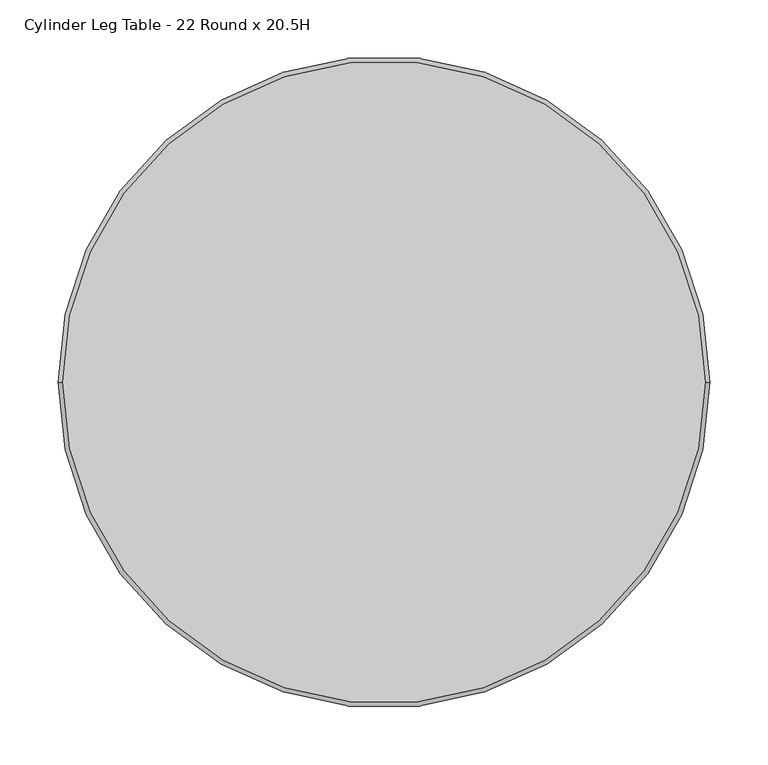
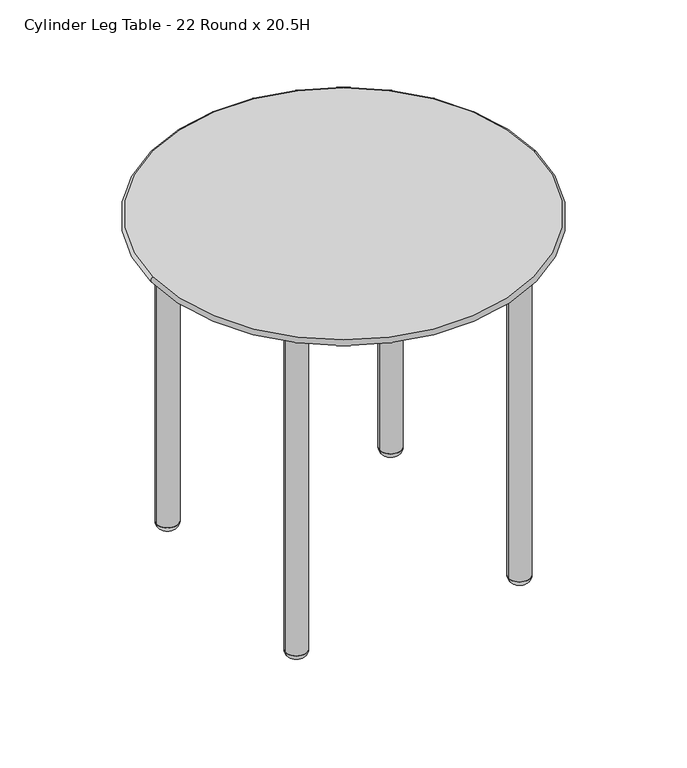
"""IFC4 building model written with IfcOpenShell, lengths in millimetres: furniture geometry, Integra - Coastal Collection - Coastal Metal Tables - Freestanding Table : Cylinder Leg Table - 22 Round x 20.5H."""

from ifc_helpers import new_model, si_unit, point, frame, frame_2d, origin, origin_2d, place, context, project, spatial, circle_curve, ellipse_curve, trimmed, segment, composite_curve, outline, extrude, source, transform, mapped, element, save
from ifc_brep_helpers import plane_surface, revolved_surface, advanced_brep


def cylinder_leg_table_22_round_x_20_5h_de9a7b23(model_context):
    return source(origin(), model_context, "Body", "SolidModel", [
        advanced_brep(
        [(-253.984015, 0.0, 507.9999939), (253.984015, 0.0, 507.9999939), (275.4380192, 0.0, 520.7), (-275.4380192, 0.0, 520.7), (277.1187402, 0.0, 513.1501969), (-277.1187402, 0.0, 513.1501969)],
        [
            (0, 1, circle_curve(frame((0.0, 0.0, 507.9999939), z_axis=(0.0, 0.0, -1.0), x_axis=(1.0, 0.0, 0.0)), 253.984015)),
            (1, 0, circle_curve(frame((0.0, 0.0, 507.9999939), z_axis=(0.0, 0.0, -1.0), x_axis=(-1.0, 0.0, 0.0)), 253.984015)),
            (2, 3, circle_curve(frame((0.0, 0.0, 520.7), z_axis=(0.0, 0.0, 1.0), x_axis=(1.0, 0.0, 0.0)), 275.4380192)),
            (3, 2, circle_curve(frame((0.0, 0.0, 520.7), z_axis=(0.0, 0.0, 1.0), x_axis=(-1.0, 0.0, 0.0)), 275.4380192)),
            (2, 4, circle_curve(frame((275.4380192, 0.0, 516.7380192), z_axis=(0.0, 1.0, 0.0), x_axis=(-1.0, 0.0, 0.0)), 3.9619808)),
            (4, 5, circle_curve(frame((0.0, 0.0, 513.1501969), z_axis=(0.0, 0.0, 1.0), x_axis=(1.0, 0.0, 0.0)), 277.1187402)),
            (5, 3, circle_curve(frame((-275.4380192, 0.0, 516.7380192), z_axis=(0.0, 1.0, 0.0), x_axis=(1.0, 0.0, 0.0)), 3.9619808)),
            (4, 1, circle_curve(frame((253.984015, 0.0, 562.5357186), z_axis=(0.0, 1.0, 0.0), x_axis=(-1.0, 0.0, 0.0)), 54.5357246)),
            (0, 5, circle_curve(frame((-253.984015, 0.0, 562.5357186), z_axis=(0.0, 1.0, 0.0), x_axis=(1.0, 0.0, 0.0)), 54.5357246)),
            (5, 4, circle_curve(frame((0.0, 0.0, 513.1501969), z_axis=(0.0, 0.0, 1.0), x_axis=(-1.0, 0.0, 0.0)), 277.1187402)),
        ],
        [
            plane_surface(frame((-25.4, 0.0, 507.9999939), z_axis=(0.0, 0.0, -1.0), x_axis=(0.0, 1.0, 0.0))),
            plane_surface(frame((-25.4, 0.0, 520.7), z_axis=(0.0, 0.0, 1.0), x_axis=(0.0, -1.0, 0.0))),
            revolved_surface(trimmed(ellipse_curve(frame((275.4380192, 0.0, 516.7380192), z_axis=(0.0, -1.0, 0.0), x_axis=(-1.0, 0.0, 0.0)), 3.9619808, 3.9619808), [point((277.1187402, 0.0, 513.1501969))], [point((275.4380192, 0.0, 520.7))], True, "CARTESIAN"), (0.0, 0.0, 520.7), (0.0, 0.0, 1.0)),
            revolved_surface(trimmed(ellipse_curve(frame((253.984015, 0.0, 562.5357186), z_axis=(0.0, -1.0, 0.0), x_axis=(-1.0, 0.0, 0.0)), 54.5357246, 54.5357246), [point((253.984015, 0.0, 507.9999939))], [point((277.1187402, 0.0, 513.1501969))], True, "CARTESIAN"), (0.0, 0.0, 520.7), (0.0, 0.0, 1.0)),
            revolved_surface(trimmed(ellipse_curve(frame((-275.4380192, 0.0, 516.7380192), z_axis=(0.0, 1.0, 0.0), x_axis=(1.0, 0.0, 0.0)), 3.9619808, 3.9619808), [point((-277.1187402, 0.0, 513.1501969))], [point((-275.4380192, 0.0, 520.7))], True, "CARTESIAN"), (0.0, 0.0, 520.7), (0.0, 0.0, 1.0)),
            revolved_surface(trimmed(ellipse_curve(frame((-253.984015, 0.0, 562.5357186), z_axis=(0.0, 1.0, 0.0), x_axis=(1.0, 0.0, 0.0)), 54.5357246, 54.5357246), [point((-253.984015, 0.0, 507.9999939))], [point((-277.1187402, 0.0, 513.1501969))], True, "CARTESIAN"), (0.0, 0.0, 520.7), (0.0, 0.0, 1.0)),
        ],
        [
            (0, [[1, 2]]),
            (1, [[3, 4]]),
            (2, [[-3, 5, 6, 7]]),
            (3, [[-6, 8, -1, 9]]),
            (4, [[-5, -4, -7, 10]]),
            (5, [[-8, -10, -9, -2]]),
        ],
    ),
        extrude(outline(composite_curve([segment(trimmed(circle_curve(origin_2d(), 254.0), [point((-254.0, 0.0))], [point((254.0, 0.0))], False, "CARTESIAN"), True, "CONTINUOUS"), segment(trimmed(circle_curve(origin_2d(), 254.0), [point((254.0, 0.0))], [point((-254.0, 0.0))], False, "CARTESIAN"), True, "CONTINUOUS")], self_intersect=False)), frame((0.0, 0.0, 501.6499939), z_axis=(0.0, 0.0, 1.0), x_axis=(1.0, 0.0, 0.0)), (0.0, 0.0, 1.0), 6.35),
        advanced_brep(
        [(-177.2890041, 161.6446102, 9.5239742), (-146.0002163, 161.6446102, 9.5239742), (-161.6446102, 161.6446102, 9.5239742), (-167.7640041, 161.6446102, -0.0010258), (-155.5252163, 161.6446102, -0.0010258), (-161.6446102, 161.6446102, -0.0010258)],
        [
            (0, 1, circle_curve(frame((-161.6446102, 161.6446102, 9.5239742), z_axis=(0.0, 0.0, 1.0), x_axis=(1.0, 0.0, 0.0)), 15.6443939)),
            (1, 2),
            (2, 0),
            (1, 0, circle_curve(frame((-161.6446102, 161.6446102, 9.5239742), z_axis=(0.0, 0.0, 1.0), x_axis=(1.0, 0.0, 0.0)), 15.6443939)),
            (3, 4, circle_curve(frame((-161.6446102, 161.6446102, -0.0010258), z_axis=(0.0, 0.0, 1.0), x_axis=(1.0, 0.0, 0.0)), 6.1193939)),
            (4, 1, circle_curve(frame((-155.5252163, 161.6446102, 9.5239742), z_axis=(0.0, -1.0, 0.0), x_axis=(1.0, 0.0, 0.0)), 9.525)),
            (0, 3, circle_curve(frame((-167.7640041, 161.6446102, 9.5239742), z_axis=(0.0, -1.0, 0.0), x_axis=(-1.0, 0.0, 0.0)), 9.525)),
            (4, 3, circle_curve(frame((-161.6446102, 161.6446102, -0.0010258), z_axis=(0.0, 0.0, 1.0), x_axis=(1.0, 0.0, 0.0)), 6.1193939)),
            (5, 4),
            (3, 5),
        ],
        [
            plane_surface(frame((-161.6446102, 161.6446102, 9.5239742), z_axis=(0.0, 0.0, 1.0), x_axis=(1.0, 0.0, 0.0))),
            revolved_surface(trimmed(ellipse_curve(frame((-155.5252163, 161.6446102, 9.5239742), z_axis=(0.0, 1.0, 0.0), x_axis=(1.0, 0.0, 0.0)), 9.525, 9.525), [point((-146.0002163, 161.6446102, 9.5239742))], [point((-155.5252163, 161.6446102, -0.0010258))], True, "CARTESIAN"), (-161.6446102, 161.6446102, -0.0010258), (0.0, 0.0, -1.0)),
            plane_surface(frame((-161.6446102, 161.6446102, -0.0010258), z_axis=(0.0, 0.0, -1.0), x_axis=(1.0, 0.0, 0.0))),
        ],
        [
            (0, [[1, 2, 3]]),
            (0, [[4, -3, -2]]),
            (1, [[5, 6, -1, 7]]),
            (1, [[8, -7, -4, -6]]),
            (2, [[9, -5, 10]]),
            (2, [[-10, -8, -9]]),
        ],
    ),
        advanced_brep(
        [(-161.6446102, -161.6446102, 9.5239742), (-146.0002163, -161.6446102, 9.5239742), (-177.2890041, -161.6446102, 9.5239742), (-155.5252163, -161.6446102, -0.0010258), (-167.7640041, -161.6446102, -0.0010258), (-161.6446102, -161.6446102, -0.0010258)],
        [
            (0, 1),
            (1, 2, circle_curve(frame((-161.6446102, -161.6446102, 9.5239742), z_axis=(0.0, 0.0, 1.0), x_axis=(1.0, 0.0, 0.0)), 15.6443939)),
            (2, 0),
            (2, 1, circle_curve(frame((-161.6446102, -161.6446102, 9.5239742), z_axis=(0.0, 0.0, 1.0), x_axis=(1.0, 0.0, 0.0)), 15.6443939)),
            (1, 3, circle_curve(frame((-155.5252163, -161.6446102, 9.5239742), z_axis=(0.0, 1.0, 0.0), x_axis=(1.0, 0.0, 0.0)), 9.525)),
            (3, 4, circle_curve(frame((-161.6446102, -161.6446102, -0.0010258), z_axis=(0.0, 0.0, 1.0), x_axis=(1.0, 0.0, 0.0)), 6.1193939)),
            (4, 2, circle_curve(frame((-167.7640041, -161.6446102, 9.5239742), z_axis=(0.0, 1.0, 0.0), x_axis=(-1.0, 0.0, 0.0)), 9.525)),
            (4, 3, circle_curve(frame((-161.6446102, -161.6446102, -0.0010258), z_axis=(0.0, 0.0, 1.0), x_axis=(1.0, 0.0, 0.0)), 6.1193939)),
            (3, 5),
            (5, 4),
        ],
        [
            plane_surface(frame((-161.6446102, -161.6446102, 9.5239742), z_axis=(0.0, 0.0, 1.0), x_axis=(1.0, 0.0, 0.0))),
            revolved_surface(trimmed(ellipse_curve(frame((-155.5252163, -161.6446102, 9.5239742), z_axis=(0.0, -1.0, 0.0), x_axis=(1.0, 0.0, 0.0)), 9.525, 9.525), [point((-155.5252163, -161.6446102, -0.0010258))], [point((-146.0002163, -161.6446102, 9.5239742))], True, "CARTESIAN"), (-161.6446102, -161.6446102, -0.0010258), (0.0, 0.0, 1.0)),
            plane_surface(frame((-161.6446102, -161.6446102, -0.0010258), z_axis=(0.0, 0.0, -1.0), x_axis=(1.0, 0.0, 0.0))),
        ],
        [
            (0, [[1, 2, 3]]),
            (0, [[-3, 4, -1]]),
            (1, [[-2, 5, 6, 7]]),
            (1, [[-4, -7, 8, -5]]),
            (2, [[-6, 9, 10]]),
            (2, [[-8, -10, -9]]),
        ],
    ),
        advanced_brep(
        [(161.6446102, 161.6446102, 9.5239742), (146.0002163, 161.6446102, 9.5239742), (177.2890041, 161.6446102, 9.5239742), (155.5252163, 161.6446102, -0.0010258), (167.7640041, 161.6446102, -0.0010258), (161.6446102, 161.6446102, -0.0010258)],
        [
            (0, 1),
            (1, 2, circle_curve(frame((161.6446102, 161.6446102, 9.5239742), z_axis=(0.0, 0.0, 1.0), x_axis=(-1.0, 0.0, 0.0)), 15.6443939)),
            (2, 0),
            (2, 1, circle_curve(frame((161.6446102, 161.6446102, 9.5239742), z_axis=(0.0, 0.0, 1.0), x_axis=(-1.0, 0.0, 0.0)), 15.6443939)),
            (1, 3, circle_curve(frame((155.5252163, 161.6446102, 9.5239742), z_axis=(0.0, -1.0, 0.0), x_axis=(-1.0, 0.0, 0.0)), 9.525)),
            (3, 4, circle_curve(frame((161.6446102, 161.6446102, -0.0010258), z_axis=(0.0, 0.0, 1.0), x_axis=(-1.0, 0.0, 0.0)), 6.1193939)),
            (4, 2, circle_curve(frame((167.7640041, 161.6446102, 9.5239742), z_axis=(0.0, -1.0, 0.0), x_axis=(1.0, 0.0, 0.0)), 9.525)),
            (4, 3, circle_curve(frame((161.6446102, 161.6446102, -0.0010258), z_axis=(0.0, 0.0, 1.0), x_axis=(-1.0, 0.0, 0.0)), 6.1193939)),
            (3, 5),
            (5, 4),
        ],
        [
            plane_surface(frame((161.6446102, 161.6446102, 9.5239742), z_axis=(0.0, 0.0, 1.0), x_axis=(-1.0, 0.0, 0.0))),
            revolved_surface(trimmed(ellipse_curve(frame((155.5252163, 161.6446102, 9.5239742), z_axis=(0.0, 1.0, 0.0), x_axis=(-1.0, 0.0, 0.0)), 9.525, 9.525), [point((155.5252163, 161.6446102, -0.0010258))], [point((146.0002163, 161.6446102, 9.5239742))], True, "CARTESIAN"), (161.6446102, 161.6446102, -0.0010258), (0.0, 0.0, 1.0)),
            plane_surface(frame((161.6446102, 161.6446102, -0.0010258), z_axis=(0.0, 0.0, -1.0), x_axis=(-1.0, 0.0, 0.0))),
        ],
        [
            (0, [[1, 2, 3]]),
            (0, [[-3, 4, -1]]),
            (1, [[-2, 5, 6, 7]]),
            (1, [[-4, -7, 8, -5]]),
            (2, [[-6, 9, 10]]),
            (2, [[-8, -10, -9]]),
        ],
    ),
        advanced_brep(
        [(177.2890041, -161.6446102, 9.5239742), (146.0002163, -161.6446102, 9.5239742), (161.6446102, -161.6446102, 9.5239742), (167.7640041, -161.6446102, -0.0010258), (155.5252163, -161.6446102, -0.0010258), (161.6446102, -161.6446102, -0.0010258)],
        [
            (0, 1, circle_curve(frame((161.6446102, -161.6446102, 9.5239742), z_axis=(0.0, 0.0, 1.0), x_axis=(-1.0, 0.0, 0.0)), 15.6443939)),
            (1, 2),
            (2, 0),
            (1, 0, circle_curve(frame((161.6446102, -161.6446102, 9.5239742), z_axis=(0.0, 0.0, 1.0), x_axis=(-1.0, 0.0, 0.0)), 15.6443939)),
            (3, 4, circle_curve(frame((161.6446102, -161.6446102, -0.0010258), z_axis=(0.0, 0.0, 1.0), x_axis=(-1.0, 0.0, 0.0)), 6.1193939)),
            (4, 1, circle_curve(frame((155.5252163, -161.6446102, 9.5239742), z_axis=(0.0, 1.0, 0.0), x_axis=(-1.0, 0.0, 0.0)), 9.525)),
            (0, 3, circle_curve(frame((167.7640041, -161.6446102, 9.5239742), z_axis=(0.0, 1.0, 0.0), x_axis=(1.0, 0.0, 0.0)), 9.525)),
            (4, 3, circle_curve(frame((161.6446102, -161.6446102, -0.0010258), z_axis=(0.0, 0.0, 1.0), x_axis=(-1.0, 0.0, 0.0)), 6.1193939)),
            (5, 4),
            (3, 5),
        ],
        [
            plane_surface(frame((161.6446102, -161.6446102, 9.5239742), z_axis=(0.0, 0.0, 1.0), x_axis=(-1.0, 0.0, 0.0))),
            revolved_surface(trimmed(ellipse_curve(frame((155.5252163, -161.6446102, 9.5239742), z_axis=(0.0, -1.0, 0.0), x_axis=(-1.0, 0.0, 0.0)), 9.525, 9.525), [point((146.0002163, -161.6446102, 9.5239742))], [point((155.5252163, -161.6446102, -0.0010258))], True, "CARTESIAN"), (161.6446102, -161.6446102, -0.0010258), (0.0, 0.0, -1.0)),
            plane_surface(frame((161.6446102, -161.6446102, -0.0010258), z_axis=(0.0, 0.0, -1.0), x_axis=(-1.0, 0.0, 0.0))),
        ],
        [
            (0, [[1, 2, 3]]),
            (0, [[4, -3, -2]]),
            (1, [[5, 6, -1, 7]]),
            (1, [[8, -7, -4, -6]]),
            (2, [[9, -5, 10]]),
            (2, [[-10, -8, -9]]),
        ],
    ),
        extrude(outline(composite_curve([segment(trimmed(circle_curve(frame_2d((161.6446102, 161.6446102)), 15.6443939), [point((146.0002163, 161.6446102))], [point((177.2890041, 161.6446102))], False, "CARTESIAN"), True, "CONTINUOUS"), segment(trimmed(circle_curve(frame_2d((161.6446102, 161.6446102)), 15.6443939), [point((177.2890041, 161.6446102))], [point((146.0002163, 161.6446102))], False, "CARTESIAN"), True, "CONTINUOUS")], self_intersect=False)), frame((0.0, 0.0, 9.5366915), z_axis=(0.0, 0.0, 1.0), x_axis=(1.0, 0.0, 0.0)), (0.0, 0.0, 1.0), 492.1133025),
        extrude(outline(composite_curve([segment(trimmed(circle_curve(frame_2d((161.6446102, -161.6446102)), 15.6443939), [point((146.0002163, -161.6446102))], [point((177.2890041, -161.6446102))], False, "CARTESIAN"), True, "CONTINUOUS"), segment(trimmed(circle_curve(frame_2d((161.6446102, -161.6446102)), 15.6443939), [point((177.2890041, -161.6446102))], [point((146.0002163, -161.6446102))], False, "CARTESIAN"), True, "CONTINUOUS")], self_intersect=False)), frame((0.0, 0.0, 9.5366915), z_axis=(0.0, 0.0, 1.0), x_axis=(1.0, 0.0, 0.0)), (0.0, 0.0, 1.0), 492.1133025),
        extrude(outline(composite_curve([segment(trimmed(circle_curve(frame_2d((-161.6446102, 161.6446102)), 15.6443939), [point((-177.2890041, 161.6446102))], [point((-146.0002163, 161.6446102))], False, "CARTESIAN"), True, "CONTINUOUS"), segment(trimmed(circle_curve(frame_2d((-161.6446102, 161.6446102)), 15.6443939), [point((-146.0002163, 161.6446102))], [point((-177.2890041, 161.6446102))], False, "CARTESIAN"), True, "CONTINUOUS")], self_intersect=False)), frame((0.0, 0.0, 9.5366915), z_axis=(0.0, 0.0, 1.0), x_axis=(1.0, 0.0, 0.0)), (0.0, 0.0, 1.0), 492.1133025),
        extrude(outline(composite_curve([segment(trimmed(circle_curve(frame_2d((-161.6446102, -161.6446102)), 15.6443939), [point((-177.2890041, -161.6446102))], [point((-146.0002163, -161.6446102))], False, "CARTESIAN"), True, "CONTINUOUS"), segment(trimmed(circle_curve(frame_2d((-161.6446102, -161.6446102)), 15.6443939), [point((-146.0002163, -161.6446102))], [point((-177.2890041, -161.6446102))], False, "CARTESIAN"), True, "CONTINUOUS")], self_intersect=False)), frame((0.0, 0.0, 9.5366915), z_axis=(0.0, 0.0, 1.0), x_axis=(1.0, 0.0, 0.0)), (0.0, 0.0, 1.0), 492.1133025),
    ])


if __name__ == "__main__":
    model = new_model("IFC4")
    model_context = context("Model", 3, world=origin())
    ifc_project = project(units=[si_unit("LENGTHUNIT", "METRE", prefix="MILLI")], contexts=[model_context])
    site = spatial("IfcSite", under=ifc_project)
    building = spatial("IfcBuilding", under=site)
    placement = place(None, origin())
    cylinder_leg_table_22_round_x_20_5h_shape = cylinder_leg_table_22_round_x_20_5h_de9a7b23(model_context)
    element("IfcFurniture", 1, ObjectType="Integra - Coastal Collection - Coastal Metal Tables - Freestanding Table : Cylinder Leg Table - 22 Round x 20.5H", at=placement, inside=building, context=model_context, shape_type="MappedRepresentation", body=[
        mapped(cylinder_leg_table_22_round_x_20_5h_shape, transform((0.0, 0.0, 0.0), x_axis=(1.0, 0.0, 0.0), y_axis=(0.0, 1.0, 0.0), z_axis=(0.0, 0.0, 1.0))),
    ])
    save(model, "model.ifc")
